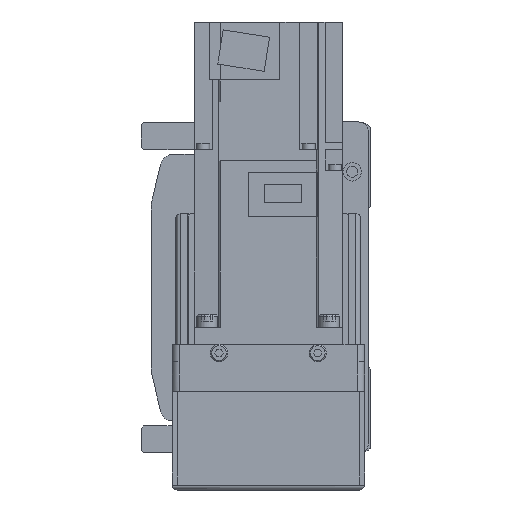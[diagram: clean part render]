
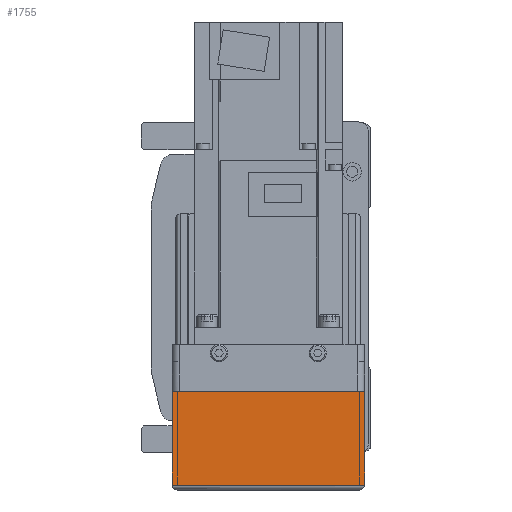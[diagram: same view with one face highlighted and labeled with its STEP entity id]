
A CAD part, left-side view. The second image highlights one B-rep face of the part: STEP entity #1755.
In plain terms, the highlighted planar face has unit normal (-1, 0, 0).
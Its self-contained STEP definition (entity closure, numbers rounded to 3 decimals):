
#1755 = ADVANCED_FACE( '', ( #4205 ), #4206, .F. );
#4205 = FACE_OUTER_BOUND( '', #7523, .T. );
#4206 = PLANE( '', #7524 );
#7523 = EDGE_LOOP( '', ( #12531, #12532, #12533, #12534 ) );
#7524 = AXIS2_PLACEMENT_3D( '', #12535, #12536, #12537 );
#12531 = ORIENTED_EDGE( '', *, *, #20397, .F. );
#12532 = ORIENTED_EDGE( '', *, *, #20310, .F. );
#12533 = ORIENTED_EDGE( '', *, *, #20398, .T. );
#12534 = ORIENTED_EDGE( '', *, *, #20399, .F. );
#12535 = CARTESIAN_POINT( '', ( -158., 36., 7. ) );
#12536 = DIRECTION( '', ( 1., 0., 0. ) );
#12537 = DIRECTION( '', ( 0., 0., -1. ) );
#20310 = EDGE_CURVE( '', #24834, #22544, #24836, .T. );
#20397 = EDGE_CURVE( '', #22544, #24967, #24968, .T. );
#20398 = EDGE_CURVE( '', #24834, #24969, #24970, .T. );
#20399 = EDGE_CURVE( '', #24967, #24969, #24971, .T. );
#22544 = VERTEX_POINT( '', #27820 );
#24834 = VERTEX_POINT( '', #31070 );
#24836 = LINE( '', #31073, #31074 );
#24967 = VERTEX_POINT( '', #31249 );
#24968 = LINE( '', #31250, #31251 );
#24969 = VERTEX_POINT( '', #31252 );
#24970 = LINE( '', #31253, #31254 );
#24971 = LINE( '', #31255, #31256 );
#27820 = CARTESIAN_POINT( '', ( -158., 39., -12.1 ) );
#31070 = CARTESIAN_POINT( '', ( -158., 39., -50. ) );
#31073 = CARTESIAN_POINT( '', ( -158., 39., -50. ) );
#31074 = VECTOR( '', #37117, 1000. );
#31249 = CARTESIAN_POINT( '', ( -158., -39., -12.1 ) );
#31250 = CARTESIAN_POINT( '', ( -158., 50., -12.1 ) );
#31251 = VECTOR( '', #37237, 1000. );
#31252 = CARTESIAN_POINT( '', ( -158., -39., -50. ) );
#31253 = CARTESIAN_POINT( '', ( -158., 40., -50. ) );
#31254 = VECTOR( '', #37238, 1000. );
#31255 = CARTESIAN_POINT( '', ( -158., -39., -12.1 ) );
#31256 = VECTOR( '', #37239, 1000. );
#37117 = DIRECTION( '', ( 0., 0., 1. ) );
#37237 = DIRECTION( '', ( 0., -1., 0. ) );
#37238 = DIRECTION( '', ( 0., -1., 0. ) );
#37239 = DIRECTION( '', ( 0., 0., -1. ) );
